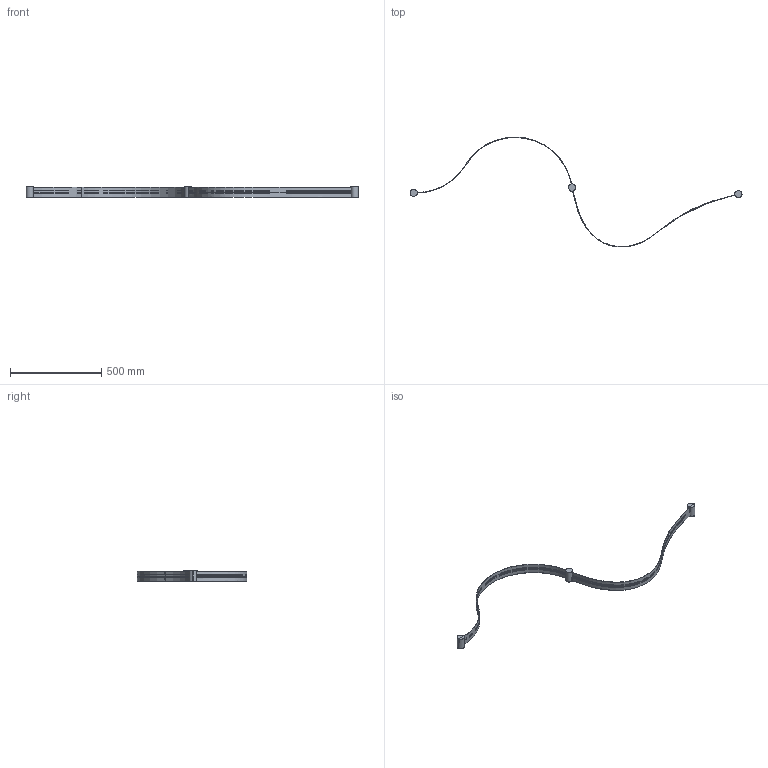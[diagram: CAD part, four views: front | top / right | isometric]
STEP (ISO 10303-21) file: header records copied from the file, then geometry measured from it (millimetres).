
FILE_DESCRIPTION((''),'2;1');
FILE_NAME('136_ISIN_SW0001','2025-05-20T15:09:00',('elena.baldelli'),(''),'CREO PARAMETRIC BY PTC INC, 2020354','CREO PARAMETRIC BY PTC INC, 2020354','');
FILE_SCHEMA(('CONFIG_CONTROL_DESIGN'));
Length unit declared in the file: millimetre
Products named in the file (1): 136_ISIN_SW0001
Bounding box: 1824.17 x 604.34 x 65 mm (x, y, z)
Volume: 163362.8 mm3; surface area: 311447.1 mm2
Topology: 2 solids, 28 shells, 136 faces, 534 edges, 408 vertices
Faces by surface type: plane 53, cylinder 48, cone 27, extrusion 8
Entity records: 7374 total; most frequent: CARTESIAN_POINT 3181, DIRECTION 804, ORIENTED_EDGE 763, EDGE_CURVE 534, VERTEX_POINT 408, AXIS2_PLACEMENT_3D 275, VECTOR 254, LINE 246
